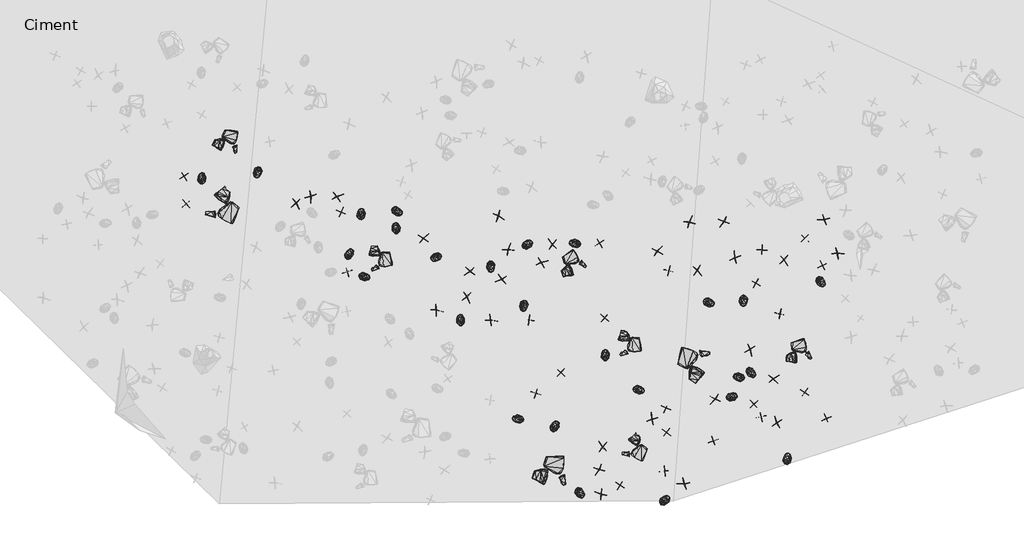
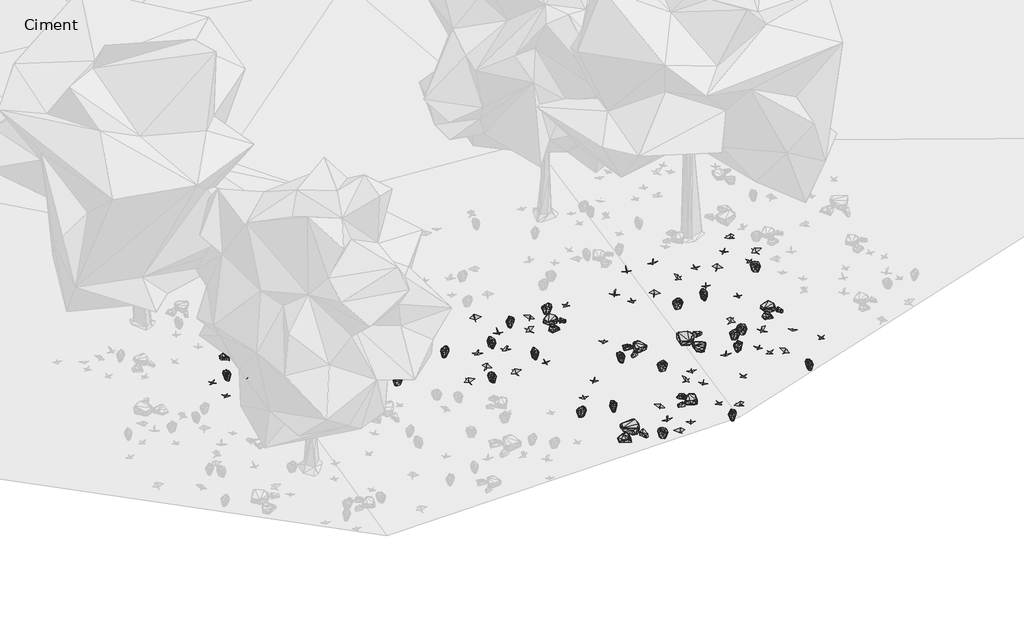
# One storey, part 3 of 30: 89 geographic elements.
"""IFC4 building model written with IfcOpenShell, lengths in millimetres."""

from ifc_helpers import new_model, si_unit, origin, place, context, project, spatial, transform, mapped, element, save
from components import enscape_assetdefinition_bush_025_fern_enscape_5718bf32, enscape_assetdefinition_bush_054_plant_09_version_2_enscape_7b546a12, enscape_assetdefinition_bush_062_plant_09_version_3_enscape_ccf8c8eb, enscape_assetdefinition_stone_013_group_enscape_516da325, enscape_assetdefinition_stone_013_group_enscape_db9b3e91

model = new_model("IFC4")

# Units and contexts
model_context = context("Model", 3, world=origin())
ifc_project = project(units=[si_unit("LENGTHUNIT", "METRE", prefix="MILLI")], contexts=[model_context])

# Site, building, storey
site = spatial("IfcSite", under=ifc_project)
building = spatial("IfcBuilding", under=site)
storey = spatial("IfcBuildingStorey", under=building, Name="Ciment", Elevation=-1500.0)

# Geographic elements
placement = place(None, origin())
enscape_assetdefinition_bush_025_fern_enscape_shape = enscape_assetdefinition_bush_025_fern_enscape_5718bf32(model_context)
element("IfcGeographicElement", 1, ObjectType="Enscape AssetDefinition - Bush 025 Fern : Enscape AssetDefinition - Bush 025 Fern", at=placement, inside=storey, context=model_context, shape_type="MappedRepresentation", body=[
    mapped(enscape_assetdefinition_bush_025_fern_enscape_shape, transform((-13961.5030289, -23129.6520233, -2418.3154106), x_axis=(-0.08780956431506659, -0.9961372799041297, 0.0), y_axis=(0.9961372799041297, -0.08780956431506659, 0.0), z_axis=(0.0, 0.0, 1.0))),
])
element("IfcGeographicElement", 2, ObjectType="Enscape AssetDefinition - Bush 025 Fern : Enscape AssetDefinition - Bush 025 Fern", at=placement, inside=storey, context=model_context, shape_type="MappedRepresentation", body=[
    mapped(enscape_assetdefinition_bush_025_fern_enscape_shape, transform((-10611.6724014, -24067.3694611, -2488.8234138), x_axis=(0.9371263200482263, -0.3489903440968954, 0.0), y_axis=(0.3489903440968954, 0.9371263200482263, 0.0), z_axis=(0.0, 0.0, 1.0))),
])
element("IfcGeographicElement", 3, ObjectType="Enscape AssetDefinition - Bush 025 Fern : Enscape AssetDefinition - Bush 025 Fern", at=placement, inside=storey, context=model_context, shape_type="MappedRepresentation", body=[
    mapped(enscape_assetdefinition_bush_025_fern_enscape_shape, transform((-8374.0606308, -25392.3854828, -2587.1636868), x_axis=(0.13866954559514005, -0.9903387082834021, 0.0), y_axis=(0.9903387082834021, 0.13866954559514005, 0.0), z_axis=(0.0, 0.0, 1.0))),
])
element("IfcGeographicElement", 4, ObjectType="Enscape AssetDefinition - Bush 025 Fern : Enscape AssetDefinition - Bush 025 Fern", at=placement, inside=storey, context=model_context, shape_type="MappedRepresentation", body=[
    mapped(enscape_assetdefinition_bush_025_fern_enscape_shape, transform((-6357.6850891, -24824.3808746, -2531.2204361), x_axis=(-0.9972411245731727, 0.07423031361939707, 0.0), y_axis=(-0.07423031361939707, -0.9972411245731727, 0.0), z_axis=(0.0, 0.0, 1.0))),
])
element("IfcGeographicElement", 5, ObjectType="Enscape AssetDefinition - Bush 025 Fern : Enscape AssetDefinition - Bush 025 Fern", at=placement, inside=storey, context=model_context, shape_type="MappedRepresentation", body=[
    mapped(enscape_assetdefinition_bush_025_fern_enscape_shape, transform((-2320.2381134, -26209.192276, -2655.1966667), x_axis=(0.014618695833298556, -0.9998931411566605, 0.0), y_axis=(0.9998931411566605, 0.014618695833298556, 0.0), z_axis=(0.0, 0.0, 1.0))),
])
element("IfcGeographicElement", 6, ObjectType="Enscape AssetDefinition - Bush 025 Fern : Enscape AssetDefinition - Bush 025 Fern", at=placement, inside=storey, context=model_context, shape_type="MappedRepresentation", body=[
    mapped(enscape_assetdefinition_bush_025_fern_enscape_shape, transform((-11390.3579712, -25631.0138702, -2603.1074524), x_axis=(0.9984094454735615, -0.056378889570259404, 0.0), y_axis=(0.056378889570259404, 0.9984094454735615, 0.0), z_axis=(0.0, 0.0, 1.0))),
])
element("IfcGeographicElement", 7, ObjectType="Enscape AssetDefinition - Bush 025 Fern : Enscape AssetDefinition - Bush 025 Fern", at=placement, inside=storey, context=model_context, shape_type="MappedRepresentation", body=[
    mapped(enscape_assetdefinition_bush_025_fern_enscape_shape, transform((-4191.3719177, -30981.2145233, -2999.2394447), x_axis=(0.6790818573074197, 0.7340625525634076, 0.0), y_axis=(-0.7340625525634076, 0.6790818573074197, 0.0), z_axis=(0.0, 0.0, 1.0))),
])
element("IfcGeographicElement", 8, ObjectType="Enscape AssetDefinition - Bush 025 Fern : Enscape AssetDefinition - Bush 025 Fern", at=placement, inside=storey, context=model_context, shape_type="MappedRepresentation", body=[
    mapped(enscape_assetdefinition_bush_025_fern_enscape_shape, transform((-7723.6499786, -29030.6949615, -2854.3531895), x_axis=(-0.9999408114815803, 0.01087996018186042, 0.0), y_axis=(-0.01087996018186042, -0.9999408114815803, 0.0), z_axis=(0.0, 0.0, 1.0))),
])
element("IfcGeographicElement", 9, ObjectType="Enscape AssetDefinition - Bush 025 Fern : Enscape AssetDefinition - Bush 025 Fern", at=placement, inside=storey, context=model_context, shape_type="MappedRepresentation", body=[
    mapped(enscape_assetdefinition_bush_025_fern_enscape_shape, transform((-10633.228302, -24452.6386261, -2517.0698166), x_axis=(-0.1950062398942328, 0.980802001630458, 0.0), y_axis=(-0.980802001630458, -0.1950062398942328, 0.0), z_axis=(0.0, 0.0, 1.0))),
])
element("IfcGeographicElement", 10, ObjectType="Enscape AssetDefinition - Bush 025 Fern : Enscape AssetDefinition - Bush 025 Fern", at=placement, inside=storey, context=model_context, shape_type="MappedRepresentation", body=[
    mapped(enscape_assetdefinition_bush_025_fern_enscape_shape, transform((-2582.1990967, -28504.2324066, -2834.7980976), x_axis=(0.9161696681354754, 0.4007906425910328, 0.0), y_axis=(-0.4007906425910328, 0.9161696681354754, 0.0), z_axis=(0.0, 0.0, 1.0))),
])
element("IfcGeographicElement", 11, ObjectType="Enscape AssetDefinition - Bush 025 Fern : Enscape AssetDefinition - Bush 025 Fern", at=placement, inside=storey, context=model_context, shape_type="MappedRepresentation", body=[
    mapped(enscape_assetdefinition_bush_025_fern_enscape_shape, transform((-6827.7416229, -29203.9432526, -2867.5227165), x_axis=(0.37171857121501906, 0.9283454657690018, 0.0), y_axis=(-0.9283454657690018, 0.37171857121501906, 0.0), z_axis=(0.0, 0.0, 1.0))),
])
element("IfcGeographicElement", 12, ObjectType="Enscape AssetDefinition - Bush 025 Fern : Enscape AssetDefinition - Bush 025 Fern", at=placement, inside=storey, context=model_context, shape_type="MappedRepresentation", body=[
    mapped(enscape_assetdefinition_bush_025_fern_enscape_shape, transform((-7482.1853638, -24850.9693146, -2541.3694382), x_axis=(0.7140884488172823, 0.7000554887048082, 0.0), y_axis=(-0.7000554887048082, 0.7140884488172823, 0.0), z_axis=(0.0, 0.0, 1.0))),
])
element("IfcGeographicElement", 13, ObjectType="Enscape AssetDefinition - Bush 025 Fern : Enscape AssetDefinition - Bush 025 Fern", at=placement, inside=storey, context=model_context, shape_type="MappedRepresentation", body=[
    mapped(enscape_assetdefinition_bush_025_fern_enscape_shape, transform((-4818.0980682, -28343.7786102, -2797.4710464), x_axis=(0.9928676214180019, -0.11922200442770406, 0.0), y_axis=(0.11922200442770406, 0.9928676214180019, 0.0), z_axis=(0.0, 0.0, 1.0))),
])
element("IfcGeographicElement", 14, ObjectType="Enscape AssetDefinition - Bush 025 Fern : Enscape AssetDefinition - Bush 025 Fern", at=placement, inside=storey, context=model_context, shape_type="MappedRepresentation", body=[
    mapped(enscape_assetdefinition_bush_025_fern_enscape_shape, transform((-2426.7177582, -28027.8263092, -2800.1658916), x_axis=(-0.9946806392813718, 0.10300692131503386, 0.0), y_axis=(-0.10300692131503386, -0.9946806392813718, 0.0), z_axis=(0.0, 0.0, 1.0))),
])
element("IfcGeographicElement", 15, ObjectType="Enscape AssetDefinition - Bush 025 Fern : Enscape AssetDefinition - Bush 025 Fern", at=placement, inside=storey, context=model_context, shape_type="MappedRepresentation", body=[
    mapped(enscape_assetdefinition_bush_025_fern_enscape_shape, transform((-3136.9132996, -26252.4623871, -2637.3078823), x_axis=(0.9695467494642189, -0.2449063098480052, 0.0), y_axis=(0.2449063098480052, 0.9695467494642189, 0.0), z_axis=(0.0, 0.0, 1.0))),
])
element("IfcGeographicElement", 16, ObjectType="Enscape AssetDefinition - Bush 025 Fern : Enscape AssetDefinition - Bush 025 Fern", at=placement, inside=storey, context=model_context, shape_type="MappedRepresentation", body=[
    mapped(enscape_assetdefinition_bush_025_fern_enscape_shape, transform((-9091.9876099, -26656.747818, -2679.527998), x_axis=(-0.2405968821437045, 0.9706251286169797, 0.0), y_axis=(-0.9706251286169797, -0.2405968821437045, 0.0), z_axis=(0.0, 0.0, 1.0))),
])
element("IfcGeographicElement", 17, ObjectType="Enscape AssetDefinition - Bush 025 Fern : Enscape AssetDefinition - Bush 025 Fern", at=placement, inside=storey, context=model_context, shape_type="MappedRepresentation", body=[
    mapped(enscape_assetdefinition_bush_025_fern_enscape_shape, transform((-5621.40131, -27496.1948395, -2736.4473343), x_axis=(-0.18906187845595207, 0.9819651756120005, 0.0), y_axis=(-0.9819651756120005, -0.18906187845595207, 0.0), z_axis=(0.0, 0.0, 1.0))),
])
element("IfcGeographicElement", 18, ObjectType="Enscape AssetDefinition - Bush 025 Fern : Enscape AssetDefinition - Bush 025 Fern", at=placement, inside=storey, context=model_context, shape_type="MappedRepresentation", body=[
    mapped(enscape_assetdefinition_bush_025_fern_enscape_shape, transform((-9689.1498566, -25156.5608978, -2569.1871643), x_axis=(-0.8601232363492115, -0.5100862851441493, 0.0), y_axis=(0.5100862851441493, -0.8601232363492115, 0.0), z_axis=(0.0, 0.0, 1.0))),
])
element("IfcGeographicElement", 19, ObjectType="Enscape AssetDefinition - Bush 025 Fern : Enscape AssetDefinition - Bush 025 Fern", at=placement, inside=storey, context=model_context, shape_type="MappedRepresentation", body=[
    mapped(enscape_assetdefinition_bush_025_fern_enscape_shape, transform((-463.1938636, -25755.3577423, -2666.9948101), x_axis=(0.7051768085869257, -0.7090315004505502, 0.0), y_axis=(0.7090315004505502, 0.7051768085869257, 0.0), z_axis=(0.0, 0.0, 1.0))),
])
element("IfcGeographicElement", 20, ObjectType="Enscape AssetDefinition - Bush 025 Fern : Enscape AssetDefinition - Bush 025 Fern", at=placement, inside=storey, context=model_context, shape_type="MappedRepresentation", body=[
    mapped(enscape_assetdefinition_bush_025_fern_enscape_shape, transform((-15290.7657623, -23260.8242035, -2502.9931068), x_axis=(-0.09757459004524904, 0.9952282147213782, 0.0), y_axis=(-0.9952282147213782, -0.09757459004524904, 0.0), z_axis=(0.0, 0.0, 1.0))),
])
element("IfcGeographicElement", 21, ObjectType="Enscape AssetDefinition - Bush 025 Fern : Enscape AssetDefinition - Bush 025 Fern", at=placement, inside=storey, context=model_context, shape_type="MappedRepresentation", body=[
    mapped(enscape_assetdefinition_bush_025_fern_enscape_shape, transform((-1258.0375671, -29982.5153351, -2989.6104336), x_axis=(0.05365490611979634, 0.9985595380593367, 0.0), y_axis=(-0.9985595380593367, 0.05365490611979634, 0.0), z_axis=(0.0, 0.0, 1.0))),
])
element("IfcGeographicElement", 22, ObjectType="Enscape AssetDefinition - Bush 025 Fern : Enscape AssetDefinition - Bush 025 Fern", at=placement, inside=storey, context=model_context, shape_type="MappedRepresentation", body=[
    mapped(enscape_assetdefinition_bush_025_fern_enscape_shape, transform((-2131.5994263, -27930.0308228, -2799.9556065), x_axis=(0.7469621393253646, -0.6648665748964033, 0.0), y_axis=(0.6648665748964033, 0.7469621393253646, 0.0), z_axis=(0.0, 0.0, 1.0))),
])
element("IfcGeographicElement", 23, ObjectType="Enscape AssetDefinition - Bush 025 Fern : Enscape AssetDefinition - Bush 025 Fern", at=placement, inside=storey, context=model_context, shape_type="MappedRepresentation", body=[
    mapped(enscape_assetdefinition_bush_025_fern_enscape_shape, transform((-11470.4217911, -24118.768692, -2492.149353), x_axis=(-0.043598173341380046, 0.9990491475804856, 0.0), y_axis=(-0.9990491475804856, -0.043598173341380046, 0.0), z_axis=(0.0, 0.0, 1.0))),
])
element("IfcGeographicElement", 24, ObjectType="Enscape AssetDefinition - Bush 025 Fern : Enscape AssetDefinition - Bush 025 Fern", at=placement, inside=storey, context=model_context, shape_type="MappedRepresentation", body=[
    mapped(enscape_assetdefinition_bush_025_fern_enscape_shape, transform((-7583.9672089, -26331.1290741, -2656.4240456), x_axis=(-0.03552901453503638, -0.99936864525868, 0.0), y_axis=(0.99936864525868, -0.03552901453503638, 0.0), z_axis=(0.0, 0.0, 1.0))),
])
element("IfcGeographicElement", 25, ObjectType="Enscape AssetDefinition - Bush 025 Fern : Enscape AssetDefinition - Bush 025 Fern", at=placement, inside=storey, context=model_context, shape_type="MappedRepresentation", body=[
    mapped(enscape_assetdefinition_bush_025_fern_enscape_shape, transform((-11754.2133331, -25076.6658783, -2562.2603893), x_axis=(0.4062116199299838, 0.9137790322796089, 0.0), y_axis=(-0.9137790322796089, 0.4062116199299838, 0.0), z_axis=(0.0, 0.0, 1.0))),
])
element("IfcGeographicElement", 26, ObjectType="Enscape AssetDefinition - Bush 025 Fern : Enscape AssetDefinition - Bush 025 Fern", at=placement, inside=storey, context=model_context, shape_type="MappedRepresentation", body=[
    mapped(enscape_assetdefinition_bush_025_fern_enscape_shape, transform((-6233.5109711, -30814.9032593, -2985.9867096), x_axis=(0.7418244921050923, -0.670594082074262, 0.0), y_axis=(0.670594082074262, 0.7418244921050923, 0.0), z_axis=(0.0, 0.0, 1.0))),
])
enscape_assetdefinition_bush_054_plant_09_version_2_enscape_shape = enscape_assetdefinition_bush_054_plant_09_version_2_enscape_7b546a12(model_context)
element("IfcGeographicElement", 27, ObjectType="Enscape AssetDefinition - Bush 054 Plant 09, Version 2 : Enscape AssetDefinition - Bush 054 Plant 09, Version 2", at=placement, inside=storey, context=model_context, shape_type="MappedRepresentation", body=[
    mapped(enscape_assetdefinition_bush_054_plant_09_version_2_enscape_shape, transform((-1873.4645844, -24979.0630341, -2566.9608116), x_axis=(0.011928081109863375, -0.9999288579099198, 0.0), y_axis=(0.9999288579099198, 0.011928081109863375, 0.0), z_axis=(0.0, 0.0, 1.0))),
])
element("IfcGeographicElement", 28, ObjectType="Enscape AssetDefinition - Bush 054 Plant 09, Version 2 : Enscape AssetDefinition - Bush 054 Plant 09, Version 2", at=placement, inside=storey, context=model_context, shape_type="MappedRepresentation", body=[
    mapped(enscape_assetdefinition_bush_054_plant_09_version_2_enscape_shape, transform((-15667.0923233, -23883.3026886, -2569.4556236), x_axis=(0.7237067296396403, 0.6901076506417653, 0.0), y_axis=(-0.6901076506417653, 0.7237067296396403, 0.0), z_axis=(0.0, 0.0, 1.0))),
])
element("IfcGeographicElement", 29, ObjectType="Enscape AssetDefinition - Bush 054 Plant 09, Version 2 : Enscape AssetDefinition - Bush 054 Plant 09, Version 2", at=placement, inside=storey, context=model_context, shape_type="MappedRepresentation", body=[
    mapped(enscape_assetdefinition_bush_054_plant_09_version_2_enscape_shape, transform((-847.4082947, -28393.1312561, -2871.2384701), x_axis=(-0.509105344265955, -0.8607042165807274, 0.0), y_axis=(0.8607042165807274, -0.509105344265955, 0.0), z_axis=(0.0, 0.0, 1.0))),
])
element("IfcGeographicElement", 30, ObjectType="Enscape AssetDefinition - Bush 054 Plant 09, Version 2 : Enscape AssetDefinition - Bush 054 Plant 09, Version 2", at=placement, inside=storey, context=model_context, shape_type="MappedRepresentation", body=[
    mapped(enscape_assetdefinition_bush_054_plant_09_version_2_enscape_shape, transform((-332.5881958, -29021.3871002, -2935.7757568), x_axis=(0.45065573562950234, -0.8926978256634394, 0.0), y_axis=(0.8926978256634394, 0.45065573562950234, 0.0), z_axis=(0.0, 0.0, 1.0))),
])
element("IfcGeographicElement", 31, ObjectType="Enscape AssetDefinition - Bush 054 Plant 09, Version 2 : Enscape AssetDefinition - Bush 054 Plant 09, Version 2", at=placement, inside=storey, context=model_context, shape_type="MappedRepresentation", body=[
    mapped(enscape_assetdefinition_bush_054_plant_09_version_2_enscape_shape, transform((-4168.2701111, -28771.9402313, -2826.54953), x_axis=(0.34315015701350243, 0.9392805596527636, 0.0), y_axis=(-0.9392805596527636, 0.34315015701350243, 0.0), z_axis=(0.0, 0.0, 1.0))),
])
element("IfcGeographicElement", 32, ObjectType="Enscape AssetDefinition - Bush 054 Plant 09, Version 2 : Enscape AssetDefinition - Bush 054 Plant 09, Version 2", at=placement, inside=storey, context=model_context, shape_type="MappedRepresentation", body=[
    mapped(enscape_assetdefinition_bush_054_plant_09_version_2_enscape_shape, transform((-15713.2120132, -23217.3671722, -2527.7676582), x_axis=(-0.5642167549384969, 0.8256267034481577, 0.0), y_axis=(-0.8256267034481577, -0.5642167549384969, 0.0), z_axis=(0.0, 0.0, 1.0))),
])
element("IfcGeographicElement", 33, ObjectType="Enscape AssetDefinition - Bush 054 Plant 09, Version 2 : Enscape AssetDefinition - Bush 054 Plant 09, Version 2", at=placement, inside=storey, context=model_context, shape_type="MappedRepresentation", body=[
    mapped(enscape_assetdefinition_bush_054_plant_09_version_2_enscape_shape, transform((-5268.4879303, -30628.9634705, -2972.8474617), x_axis=(0.46793591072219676, 0.8837624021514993, 0.0), y_axis=(-0.8837624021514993, 0.46793591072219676, 0.0), z_axis=(0.0, 0.0, 1.0))),
])
element("IfcGeographicElement", 34, ObjectType="Enscape AssetDefinition - Bush 054 Plant 09, Version 2 : Enscape AssetDefinition - Bush 054 Plant 09, Version 2", at=placement, inside=storey, context=model_context, shape_type="MappedRepresentation", body=[
    mapped(enscape_assetdefinition_bush_054_plant_09_version_2_enscape_shape, transform((-1445.0817108, -26520.5821991, -2703.4332752), x_axis=(0.9899064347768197, -0.1417224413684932, 0.0), y_axis=(0.1417224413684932, 0.9899064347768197, 0.0), z_axis=(0.0, 0.0, 1.0))),
])
element("IfcGeographicElement", 35, ObjectType="Enscape AssetDefinition - Bush 054 Plant 09, Version 2 : Enscape AssetDefinition - Bush 054 Plant 09, Version 2", at=placement, inside=storey, context=model_context, shape_type="MappedRepresentation", body=[
    mapped(enscape_assetdefinition_bush_054_plant_09_version_2_enscape_shape, transform((-4159.3132019, -29351.568222, -2872.1523285), x_axis=(-0.5634094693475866, -0.826177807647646, 0.0), y_axis=(0.826177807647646, -0.5634094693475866, 0.0), z_axis=(0.0, 0.0, 1.0))),
])
element("IfcGeographicElement", 36, ObjectType="Enscape AssetDefinition - Bush 054 Plant 09, Version 2 : Enscape AssetDefinition - Bush 054 Plant 09, Version 2", at=placement, inside=storey, context=model_context, shape_type="MappedRepresentation", body=[
    mapped(enscape_assetdefinition_bush_054_plant_09_version_2_enscape_shape, transform((-420.1049805, -25362.2570038, -2636.1851692), x_axis=(0.8747890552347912, 0.4845039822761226, 0.0), y_axis=(-0.4845039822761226, 0.8747890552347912, 0.0), z_axis=(0.0, 0.0, 1.0))),
])
element("IfcGeographicElement", 37, ObjectType="Enscape AssetDefinition - Bush 054 Plant 09, Version 2 : Enscape AssetDefinition - Bush 054 Plant 09, Version 2", at=placement, inside=storey, context=model_context, shape_type="MappedRepresentation", body=[
    mapped(enscape_assetdefinition_bush_054_plant_09_version_2_enscape_shape, transform((-11957.6263428, -24082.3001862, -2489.2232418), x_axis=(0.9417108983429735, -0.3364232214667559, 0.0), y_axis=(0.3364232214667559, 0.9417108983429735, 0.0), z_axis=(0.0, 0.0, 1.0))),
])
element("IfcGeographicElement", 38, ObjectType="Enscape AssetDefinition - Bush 054 Plant 09, Version 2 : Enscape AssetDefinition - Bush 054 Plant 09, Version 2", at=placement, inside=storey, context=model_context, shape_type="MappedRepresentation", body=[
    mapped(enscape_assetdefinition_bush_054_plant_09_version_2_enscape_shape, transform((-6684.6995354, -27921.661377, -2773.5471725), x_axis=(-0.7570906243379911, 0.6533098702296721, 0.0), y_axis=(-0.6533098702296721, -0.7570906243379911, 0.0), z_axis=(0.0, 0.0, 1.0))),
])
element("IfcGeographicElement", 39, ObjectType="Enscape AssetDefinition - Bush 054 Plant 09, Version 2 : Enscape AssetDefinition - Bush 054 Plant 09, Version 2", at=placement, inside=storey, context=model_context, shape_type="MappedRepresentation", body=[
    mapped(enscape_assetdefinition_bush_054_plant_09_version_2_enscape_shape, transform((-4105.0415039, -25485.8341217, -2567.1992302), x_axis=(0.9865727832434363, -0.16332220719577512, 0.0), y_axis=(0.16332220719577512, 0.9865727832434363, 0.0), z_axis=(0.0, 0.0, 1.0))),
])
element("IfcGeographicElement", 40, ObjectType="Enscape AssetDefinition - Bush 054 Plant 09, Version 2 : Enscape AssetDefinition - Bush 054 Plant 09, Version 2", at=placement, inside=storey, context=model_context, shape_type="MappedRepresentation", body=[
    mapped(enscape_assetdefinition_bush_054_plant_09_version_2_enscape_shape, transform((-2010.9138489, -25781.8012238, -2628.5791397), x_axis=(-0.8935900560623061, 0.44888396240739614, 0.0), y_axis=(-0.44888396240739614, -0.8935900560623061, 0.0), z_axis=(0.0, 0.0, 1.0))),
])
element("IfcGeographicElement", 41, ObjectType="Enscape AssetDefinition - Bush 054 Plant 09, Version 2 : Enscape AssetDefinition - Bush 054 Plant 09, Version 2", at=placement, inside=storey, context=model_context, shape_type="MappedRepresentation", body=[
    mapped(enscape_assetdefinition_bush_054_plant_09_version_2_enscape_shape, transform((-7282.907486, -28421.8940735, -2809.9279404), x_axis=(0.23126028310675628, 0.9728919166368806, 0.0), y_axis=(-0.9728919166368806, 0.23126028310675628, 0.0), z_axis=(0.0, 0.0, 1.0))),
])
element("IfcGeographicElement", 42, ObjectType="Enscape AssetDefinition - Bush 054 Plant 09, Version 2 : Enscape AssetDefinition - Bush 054 Plant 09, Version 2", at=placement, inside=storey, context=model_context, shape_type="MappedRepresentation", body=[
    mapped(enscape_assetdefinition_bush_054_plant_09_version_2_enscape_shape, transform((-7442.9988861, -26659.5230103, -2680.583477), x_axis=(-0.997400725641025, 0.07205409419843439, 0.0), y_axis=(-0.07205409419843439, -0.997400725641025, 0.0), z_axis=(0.0, 0.0, 1.0))),
])
element("IfcGeographicElement", 43, ObjectType="Enscape AssetDefinition - Bush 054 Plant 09, Version 2 : Enscape AssetDefinition - Bush 054 Plant 09, Version 2", at=placement, inside=storey, context=model_context, shape_type="MappedRepresentation", body=[
    mapped(enscape_assetdefinition_bush_054_plant_09_version_2_enscape_shape, transform((-835.9470367, -24704.0462494, -2571.8083382), x_axis=(-0.7502228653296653, 0.661185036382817, 0.0), y_axis=(-0.661185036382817, -0.7502228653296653, 0.0), z_axis=(0.0, 0.0, 1.0))),
])
element("IfcGeographicElement", 44, ObjectType="Enscape AssetDefinition - Bush 054 Plant 09, Version 2 : Enscape AssetDefinition - Bush 054 Plant 09, Version 2", at=placement, inside=storey, context=model_context, shape_type="MappedRepresentation", body=[
    mapped(enscape_assetdefinition_bush_054_plant_09_version_2_enscape_shape, transform((-2068.9640045, -28681.8447113, -2862.6799583), x_axis=(0.7467153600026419, -0.6651437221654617, 0.0), y_axis=(0.6651437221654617, 0.7467153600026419, 0.0), z_axis=(0.0, 0.0, 1.0))),
])
element("IfcGeographicElement", 45, ObjectType="Enscape AssetDefinition - Bush 054 Plant 09, Version 2 : Enscape AssetDefinition - Bush 054 Plant 09, Version 2", at=placement, inside=storey, context=model_context, shape_type="MappedRepresentation", body=[
    mapped(enscape_assetdefinition_bush_054_plant_09_version_2_enscape_shape, transform((-5636.7454529, -26618.76297, -2667.4282551), x_axis=(0.6199974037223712, 0.7846038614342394, 0.0), y_axis=(-0.7846038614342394, 0.6199974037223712, 0.0), z_axis=(0.0, 0.0, 1.0))),
])
element("IfcGeographicElement", 46, ObjectType="Enscape AssetDefinition - Bush 054 Plant 09, Version 2 : Enscape AssetDefinition - Bush 054 Plant 09, Version 2", at=placement, inside=storey, context=model_context, shape_type="MappedRepresentation", body=[
    mapped(enscape_assetdefinition_bush_054_plant_09_version_2_enscape_shape, transform((-5757.4501038, -24818.9487457, -2526.4935493), x_axis=(-0.5704330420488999, 0.8213441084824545, 0.0), y_axis=(-0.8213441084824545, -0.5704330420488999, 0.0), z_axis=(0.0, 0.0, 1.0))),
])
element("IfcGeographicElement", 47, ObjectType="Enscape AssetDefinition - Bush 054 Plant 09, Version 2 : Enscape AssetDefinition - Bush 054 Plant 09, Version 2", at=placement, inside=storey, context=model_context, shape_type="MappedRepresentation", body=[
    mapped(enscape_assetdefinition_bush_054_plant_09_version_2_enscape_shape, transform((-11802.5951385, -25507.5626373, -2593.8403606), x_axis=(-0.35753843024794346, 0.9338984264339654, 0.0), y_axis=(-0.9338984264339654, -0.35753843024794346, 0.0), z_axis=(0.0, 0.0, 1.0))),
])
element("IfcGeographicElement", 48, ObjectType="Enscape AssetDefinition - Bush 054 Plant 09, Version 2 : Enscape AssetDefinition - Bush 054 Plant 09, Version 2", at=placement, inside=storey, context=model_context, shape_type="MappedRepresentation", body=[
    mapped(enscape_assetdefinition_bush_054_plant_09_version_2_enscape_shape, transform((-1881.9580078, -28982.1033478, -2891.9768333), x_axis=(-0.25089383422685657, 0.9680146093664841, 0.0), y_axis=(-0.9680146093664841, -0.25089383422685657, 0.0), z_axis=(0.0, 0.0, 1.0))),
])
element("IfcGeographicElement", 49, ObjectType="Enscape AssetDefinition - Bush 054 Plant 09, Version 2 : Enscape AssetDefinition - Bush 054 Plant 09, Version 2", at=placement, inside=storey, context=model_context, shape_type="MappedRepresentation", body=[
    mapped(enscape_assetdefinition_bush_054_plant_09_version_2_enscape_shape, transform((-4203.5942078, -30286.359787, -2946.1166859), x_axis=(0.9855337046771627, 0.16947954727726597, 0.0), y_axis=(-0.16947954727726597, 0.9855337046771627, 0.0), z_axis=(0.0, 0.0, 1.0))),
])
element("IfcGeographicElement", 50, ObjectType="Enscape AssetDefinition - Bush 054 Plant 09, Version 2 : Enscape AssetDefinition - Bush 054 Plant 09, Version 2", at=placement, inside=storey, context=model_context, shape_type="MappedRepresentation", body=[
    mapped(enscape_assetdefinition_bush_054_plant_09_version_2_enscape_shape, transform((-3043.3559418, -29561.3956451, -2908.6036682), x_axis=(0.36829596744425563, -0.9297085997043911, 0.0), y_axis=(0.9297085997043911, 0.36829596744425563, 0.0), z_axis=(0.0, 0.0, 1.0))),
])
enscape_assetdefinition_bush_062_plant_09_version_3_enscape_shape = enscape_assetdefinition_bush_062_plant_09_version_3_enscape_ccf8c8eb(model_context)
element("IfcGeographicElement", 51, ObjectType="Enscape AssetDefinition - Bush 062 Plant 09, Version 3 : Enscape AssetDefinition - Bush 062 Plant 09, Version 3", at=placement, inside=storey, context=model_context, shape_type="MappedRepresentation", body=[
    mapped(enscape_assetdefinition_bush_062_plant_09_version_3_enscape_shape, transform((-8876.537323, -25506.7310333, -2595.2906609), x_axis=(-0.8296369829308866, 0.5583032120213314, 0.0), y_axis=(-0.5583032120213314, -0.8296369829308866, 0.0), z_axis=(0.0, 0.0, 1.0))),
])
element("IfcGeographicElement", 52, ObjectType="Enscape AssetDefinition - Bush 062 Plant 09, Version 3 : Enscape AssetDefinition - Bush 062 Plant 09, Version 3", at=placement, inside=storey, context=model_context, shape_type="MappedRepresentation", body=[
    mapped(enscape_assetdefinition_bush_062_plant_09_version_3_enscape_shape, transform((-2149.3301392, -27378.9234161, -2754.7142506), x_axis=(-0.8127163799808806, -0.5826594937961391, 0.0), y_axis=(0.5826594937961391, -0.8127163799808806, 0.0), z_axis=(0.0, 0.0, 1.0))),
])
element("IfcGeographicElement", 53, ObjectType="Enscape AssetDefinition - Bush 062 Plant 09, Version 3 : Enscape AssetDefinition - Bush 062 Plant 09, Version 3", at=placement, inside=storey, context=model_context, shape_type="MappedRepresentation", body=[
    mapped(enscape_assetdefinition_bush_062_plant_09_version_3_enscape_shape, transform((-7141.7946815, -25277.7614594, -2572.5562572), x_axis=(0.601068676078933, -0.7991973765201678, 0.0), y_axis=(0.7991973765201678, 0.601068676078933, 0.0), z_axis=(0.0, 0.0, 1.0))),
])
element("IfcGeographicElement", 54, ObjectType="Enscape AssetDefinition - Bush 062 Plant 09, Version 3 : Enscape AssetDefinition - Bush 062 Plant 09, Version 3", at=placement, inside=storey, context=model_context, shape_type="MappedRepresentation", body=[
    mapped(enscape_assetdefinition_bush_062_plant_09_version_3_enscape_shape, transform((-2522.895813, -25163.7649536, -2564.9466515), x_axis=(0.8740141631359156, 0.48590044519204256, 0.0), y_axis=(-0.48590044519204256, 0.8740141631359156, 0.0), z_axis=(0.0, 0.0, 1.0))),
])
element("IfcGeographicElement", 55, ObjectType="Enscape AssetDefinition - Bush 062 Plant 09, Version 3 : Enscape AssetDefinition - Bush 062 Plant 09, Version 3", at=placement, inside=storey, context=model_context, shape_type="MappedRepresentation", body=[
    mapped(enscape_assetdefinition_bush_062_plant_09_version_3_enscape_shape, transform((-1589.2410278, -28064.1689301, -2825.067997), x_axis=(0.8019605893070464, -0.5973769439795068, 0.0), y_axis=(0.5973769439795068, 0.8019605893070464, 0.0), z_axis=(0.0, 0.0, 1.0))),
])
element("IfcGeographicElement", 56, ObjectType="Enscape AssetDefinition - Bush 062 Plant 09, Version 3 : Enscape AssetDefinition - Bush 062 Plant 09, Version 3", at=placement, inside=storey, context=model_context, shape_type="MappedRepresentation", body=[
    mapped(enscape_assetdefinition_bush_062_plant_09_version_3_enscape_shape, transform((-3409.0557098, -25482.1033478, -2567.5854683), x_axis=(-0.4731344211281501, -0.8809902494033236, 0.0), y_axis=(0.8809902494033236, -0.4731344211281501, 0.0), z_axis=(0.0, 0.0, 1.0))),
])
element("IfcGeographicElement", 57, ObjectType="Enscape AssetDefinition - Bush 062 Plant 09, Version 3 : Enscape AssetDefinition - Bush 062 Plant 09, Version 3", at=placement, inside=storey, context=model_context, shape_type="MappedRepresentation", body=[
    mapped(enscape_assetdefinition_bush_062_plant_09_version_3_enscape_shape, transform((-6901.134491, -24844.0036774, -2536.6587639), x_axis=(0.5163165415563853, 0.8563978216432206, 0.0), y_axis=(-0.8563978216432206, 0.5163165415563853, 0.0), z_axis=(0.0, 0.0, 1.0))),
])
element("IfcGeographicElement", 58, ObjectType="Enscape AssetDefinition - Bush 062 Plant 09, Version 3 : Enscape AssetDefinition - Bush 062 Plant 09, Version 3", at=placement, inside=storey, context=model_context, shape_type="MappedRepresentation", body=[
    mapped(enscape_assetdefinition_bush_062_plant_09_version_3_enscape_shape, transform((-3608.8922024, -24308.4659576, -2470.8867073), x_axis=(0.9976643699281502, -0.0683066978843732, 0.0), y_axis=(0.0683066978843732, 0.9976643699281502, 0.0), z_axis=(0.0, 0.0, 1.0))),
])
element("IfcGeographicElement", 59, ObjectType="Enscape AssetDefinition - Bush 062 Plant 09, Version 3 : Enscape AssetDefinition - Bush 062 Plant 09, Version 3", at=placement, inside=storey, context=model_context, shape_type="MappedRepresentation", body=[
    mapped(enscape_assetdefinition_bush_062_plant_09_version_3_enscape_shape, transform((-7949.9125481, -24967.3557281, -2553.8892746), x_axis=(0.9991009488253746, 0.04239450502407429, 0.0), y_axis=(-0.04239450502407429, 0.9991009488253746, 0.0), z_axis=(0.0, 0.0, 1.0))),
])
element("IfcGeographicElement", 60, ObjectType="Enscape AssetDefinition - Bush 062 Plant 09, Version 3 : Enscape AssetDefinition - Bush 062 Plant 09, Version 3", at=placement, inside=storey, context=model_context, shape_type="MappedRepresentation", body=[
    mapped(enscape_assetdefinition_bush_062_plant_09_version_3_enscape_shape, transform((-393.1369781, -24253.9730072, -2546.8468666), x_axis=(-0.4185875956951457, 0.9081764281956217, 0.0), y_axis=(-0.9081764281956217, -0.4185875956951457, 0.0), z_axis=(0.0, 0.0, 1.0))),
])
element("IfcGeographicElement", 61, ObjectType="Enscape AssetDefinition - Bush 062 Plant 09, Version 3 : Enscape AssetDefinition - Bush 062 Plant 09, Version 3", at=placement, inside=storey, context=model_context, shape_type="MappedRepresentation", body=[
    mapped(enscape_assetdefinition_bush_062_plant_09_version_3_enscape_shape, transform((-12679.6207428, -23712.8677368, -2461.7543221), x_axis=(-0.9133522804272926, -0.40717024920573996, 0.0), y_axis=(0.40717024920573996, -0.9133522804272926, 0.0), z_axis=(0.0, 0.0, 1.0))),
])
element("IfcGeographicElement", 62, ObjectType="Enscape AssetDefinition - Bush 062 Plant 09, Version 3 : Enscape AssetDefinition - Bush 062 Plant 09, Version 3", at=placement, inside=storey, context=model_context, shape_type="MappedRepresentation", body=[
    mapped(enscape_assetdefinition_bush_062_plant_09_version_3_enscape_shape, transform((-13028.1391144, -23873.6782074, -2473.3688831), x_axis=(-0.6440258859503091, -0.7650036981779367, 0.0), y_axis=(0.7650036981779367, -0.6440258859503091, 0.0), z_axis=(0.0, 0.0, 1.0))),
])
element("IfcGeographicElement", 63, ObjectType="Enscape AssetDefinition - Bush 062 Plant 09, Version 3 : Enscape AssetDefinition - Bush 062 Plant 09, Version 3", at=placement, inside=storey, context=model_context, shape_type="MappedRepresentation", body=[
    mapped(enscape_assetdefinition_bush_062_plant_09_version_3_enscape_shape, transform((-2788.3243561, -24315.328598, -2489.055872), x_axis=(-0.9716922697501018, 0.23625014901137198, 0.0), y_axis=(-0.23625014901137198, -0.9716922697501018, 0.0), z_axis=(0.0, 0.0, 1.0))),
])
element("IfcGeographicElement", 64, ObjectType="Enscape AssetDefinition - Bush 062 Plant 09, Version 3 : Enscape AssetDefinition - Bush 062 Plant 09, Version 3", at=placement, inside=storey, context=model_context, shape_type="MappedRepresentation", body=[
    mapped(enscape_assetdefinition_bush_062_plant_09_version_3_enscape_shape, transform((-5735.8551025, -30836.3819122, -2987.8191948), x_axis=(-0.01741921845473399, 0.999848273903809, 0.0), y_axis=(-0.999848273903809, -0.01741921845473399, 0.0), z_axis=(0.0, 0.0, 1.0))),
])
element("IfcGeographicElement", 65, ObjectType="Enscape AssetDefinition - Bush 062 Plant 09, Version 3 : Enscape AssetDefinition - Bush 062 Plant 09, Version 3", at=placement, inside=storey, context=model_context, shape_type="MappedRepresentation", body=[
    mapped(enscape_assetdefinition_bush_062_plant_09_version_3_enscape_shape, transform((-4511.4574432, -29029.2949677, -2849.2836952), x_axis=(0.901023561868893, 0.4337701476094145, 0.0), y_axis=(-0.4337701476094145, 0.901023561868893, 0.0), z_axis=(0.0, 0.0, 1.0))),
])
element("IfcGeographicElement", 66, ObjectType="Enscape AssetDefinition - Bush 062 Plant 09, Version 3 : Enscape AssetDefinition - Bush 062 Plant 09, Version 3", at=placement, inside=storey, context=model_context, shape_type="MappedRepresentation", body=[
    mapped(enscape_assetdefinition_bush_062_plant_09_version_3_enscape_shape, transform((-9975.0804901, -24698.091507, -2535.4132652), x_axis=(0.8885820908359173, -0.4587176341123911, 0.0), y_axis=(0.4587176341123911, 0.8885820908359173, 0.0), z_axis=(0.0, 0.0, 1.0))),
])
element("IfcGeographicElement", 67, ObjectType="Enscape AssetDefinition - Bush 062 Plant 09, Version 3 : Enscape AssetDefinition - Bush 062 Plant 09, Version 3", at=placement, inside=storey, context=model_context, shape_type="MappedRepresentation", body=[
    mapped(enscape_assetdefinition_bush_062_plant_09_version_3_enscape_shape, transform((-50.73357, -25062.078476, -2621.4771271), x_axis=(0.3239686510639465, -0.9460678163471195, 0.0), y_axis=(0.9460678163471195, 0.3239686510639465, 0.0), z_axis=(0.0, 0.0, 1.0))),
])
element("IfcGeographicElement", 68, ObjectType="Enscape AssetDefinition - Bush 062 Plant 09, Version 3 : Enscape AssetDefinition - Bush 062 Plant 09, Version 3", at=placement, inside=storey, context=model_context, shape_type="MappedRepresentation", body=[
    mapped(enscape_assetdefinition_bush_062_plant_09_version_3_enscape_shape, transform((-5776.9641876, -30258.0680847, -2945.3811646), x_axis=(-0.9816786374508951, 0.19054409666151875, 0.0), y_axis=(-0.19054409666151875, -0.9816786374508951, 0.0), z_axis=(0.0, 0.0, 1.0))),
])
element("IfcGeographicElement", 69, ObjectType="Enscape AssetDefinition - Bush 062 Plant 09, Version 3 : Enscape AssetDefinition - Bush 062 Plant 09, Version 3", at=placement, inside=storey, context=model_context, shape_type="MappedRepresentation", body=[
    mapped(enscape_assetdefinition_bush_062_plant_09_version_3_enscape_shape, transform((-8935.4801178, -26115.6291962, -2639.9197578), x_axis=(-0.681994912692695, -0.7313569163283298, 0.0), y_axis=(0.7313569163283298, -0.681994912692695, 0.0), z_axis=(0.0, 0.0, 1.0))),
])
element("IfcGeographicElement", 70, ObjectType="Enscape AssetDefinition - Bush 062 Plant 09, Version 3 : Enscape AssetDefinition - Bush 062 Plant 09, Version 3", at=placement, inside=storey, context=model_context, shape_type="MappedRepresentation", body=[
    mapped(enscape_assetdefinition_bush_062_plant_09_version_3_enscape_shape, transform((-2997.8125095, -28566.6027069, -2828.9723396), x_axis=(-0.9349613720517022, 0.3547495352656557, 0.0), y_axis=(-0.3547495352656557, -0.9349613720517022, 0.0), z_axis=(0.0, 0.0, 1.0))),
])
element("IfcGeographicElement", 71, ObjectType="Enscape AssetDefinition - Bush 062 Plant 09, Version 3 : Enscape AssetDefinition - Bush 062 Plant 09, Version 3", at=placement, inside=storey, context=model_context, shape_type="MappedRepresentation", body=[
    mapped(enscape_assetdefinition_bush_062_plant_09_version_3_enscape_shape, transform((-12042.6931381, -23699.9645233, -2461.1365795), x_axis=(0.6631007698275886, -0.7485301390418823, 0.0), y_axis=(0.7485301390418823, 0.6631007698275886, 0.0), z_axis=(0.0, 0.0, 1.0))),
])
element("IfcGeographicElement", 72, ObjectType="Enscape AssetDefinition - Bush 062 Plant 09, Version 3 : Enscape AssetDefinition - Bush 062 Plant 09, Version 3", at=placement, inside=storey, context=model_context, shape_type="MappedRepresentation", body=[
    mapped(enscape_assetdefinition_bush_062_plant_09_version_3_enscape_shape, transform((-3748.2128143, -30589.9219513, -2973.695755), x_axis=(-0.4035397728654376, 0.9149621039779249, 0.0), y_axis=(-0.9149621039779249, -0.4035397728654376, 0.0), z_axis=(0.0, 0.0, 1.0))),
])
element("IfcGeographicElement", 73, ObjectType="Enscape AssetDefinition - Bush 062 Plant 09, Version 3 : Enscape AssetDefinition - Bush 062 Plant 09, Version 3", at=placement, inside=storey, context=model_context, shape_type="MappedRepresentation", body=[
    mapped(enscape_assetdefinition_bush_062_plant_09_version_3_enscape_shape, transform((-1517.5132751, -29115.3812408, -2912.3566151), x_axis=(0.7493967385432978, 0.6621212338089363, 0.0), y_axis=(-0.6621212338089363, 0.7493967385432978, 0.0), z_axis=(0.0, 0.0, 1.0))),
])
element("IfcGeographicElement", 74, ObjectType="Enscape AssetDefinition - Bush 062 Plant 09, Version 3 : Enscape AssetDefinition - Bush 062 Plant 09, Version 3", at=placement, inside=storey, context=model_context, shape_type="MappedRepresentation", body=[
    mapped(enscape_assetdefinition_bush_062_plant_09_version_3_enscape_shape, transform((-9661.9033813, -26425.573349, -2662.2776985), x_axis=(0.18662172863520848, -0.9824318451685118, 0.0), y_axis=(0.9824318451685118, 0.18662172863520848, 0.0), z_axis=(0.0, 0.0, 1.0))),
])
element("IfcGeographicElement", 75, ObjectType="Enscape AssetDefinition - Bush 062 Plant 09, Version 3 : Enscape AssetDefinition - Bush 062 Plant 09, Version 3", at=placement, inside=storey, context=model_context, shape_type="MappedRepresentation", body=[
    mapped(enscape_assetdefinition_bush_062_plant_09_version_3_enscape_shape, transform((-8360.9313965, -26663.2995605, -2680.385828), x_axis=(0.23789151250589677, -0.9712917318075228, 0.0), y_axis=(0.9712917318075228, 0.23789151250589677, 0.0), z_axis=(0.0, 0.0, 1.0))),
])
element("IfcGeographicElement", 76, ObjectType="Enscape AssetDefinition - Bush 062 Plant 09, Version 3 : Enscape AssetDefinition - Bush 062 Plant 09, Version 3", at=placement, inside=storey, context=model_context, shape_type="MappedRepresentation", body=[
    mapped(enscape_assetdefinition_bush_062_plant_09_version_3_enscape_shape, transform((-1333.2080841, -25229.6562195, -2601.480484), x_axis=(-0.5996795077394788, -0.8002402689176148, 0.0), y_axis=(0.8002402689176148, -0.5996795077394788, 0.0), z_axis=(0.0, 0.0, 1.0))),
])
element("IfcGeographicElement", 77, ObjectType="Enscape AssetDefinition - Bush 062 Plant 09, Version 3 : Enscape AssetDefinition - Bush 062 Plant 09, Version 3", at=placement, inside=storey, context=model_context, shape_type="MappedRepresentation", body=[
    mapped(enscape_assetdefinition_bush_062_plant_09_version_3_enscape_shape, transform((-8114.6125793, -25693.9868927, -2609.4183922), x_axis=(-0.7059419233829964, 0.7082697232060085, 0.0), y_axis=(-0.7082697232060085, -0.7059419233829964, 0.0), z_axis=(0.0, 0.0, 1.0))),
])
element("IfcGeographicElement", 78, ObjectType="Enscape AssetDefinition - Bush 062 Plant 09, Version 3 : Enscape AssetDefinition - Bush 062 Plant 09, Version 3", at=placement, inside=storey, context=model_context, shape_type="MappedRepresentation", body=[
    mapped(enscape_assetdefinition_bush_062_plant_09_version_3_enscape_shape, transform((-8173.0098724, -24173.1357574, -2492.913723), x_axis=(-0.17969192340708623, -0.9837229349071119, 0.0), y_axis=(0.9837229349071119, -0.17969192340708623, 0.0), z_axis=(0.0, 0.0, 1.0))),
])
element("IfcGeographicElement", 79, ObjectType="Enscape AssetDefinition - Bush 062 Plant 09, Version 3 : Enscape AssetDefinition - Bush 062 Plant 09, Version 3", at=placement, inside=storey, context=model_context, shape_type="MappedRepresentation", body=[
    mapped(enscape_assetdefinition_bush_062_plant_09_version_3_enscape_shape, transform((-5697.2484589, -29696.0124969, -2904.1981697), x_axis=(0.544739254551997, 0.8386054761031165, 0.0), y_axis=(-0.8386054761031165, 0.544739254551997, 0.0), z_axis=(0.0, 0.0, 1.0))),
])
element("IfcGeographicElement", 80, ObjectType="Enscape AssetDefinition - Bush 062 Plant 09, Version 3 : Enscape AssetDefinition - Bush 062 Plant 09, Version 3", at=placement, inside=storey, context=model_context, shape_type="MappedRepresentation", body=[
    mapped(enscape_assetdefinition_bush_062_plant_09_version_3_enscape_shape, transform((-4368.2098389, -25004.9381256, -2531.1965942), x_axis=(0.9387430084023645, -0.34461799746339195, 0.0), y_axis=(0.34461799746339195, 0.9387430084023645, 0.0), z_axis=(0.0, 0.0, 1.0))),
])
enscape_assetdefinition_stone_013_group_enscape_shape = enscape_assetdefinition_stone_013_group_enscape_516da325(model_context)
element("IfcGeographicElement", 81, ObjectType="Enscape AssetDefinition - Stone 013 Group : Enscape AssetDefinition - Stone 013 Group", at=placement, inside=storey, context=model_context, shape_type="MappedRepresentation", body=[
    mapped(enscape_assetdefinition_stone_013_group_enscape_shape, transform((-6876.1520386, -30316.4577484, -2949.0966797), x_axis=(0.9972914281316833, -0.07355139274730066, 0.0), y_axis=(0.07355139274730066, 0.9972914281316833, 0.0), z_axis=(0.0, 0.0, 1.0))),
])
element("IfcGeographicElement", 82, ObjectType="Enscape AssetDefinition - Stone 013 Group : Enscape AssetDefinition - Stone 013 Group", at=placement, inside=storey, context=model_context, shape_type="MappedRepresentation", body=[
    mapped(enscape_assetdefinition_stone_013_group_enscape_shape, transform((-3474.2221832, -27652.2426605, -2742.1965599), x_axis=(0.3030264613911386, 0.9529821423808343, 0.0), y_axis=(-0.9529821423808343, 0.3030264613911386, 0.0), z_axis=(0.0, 0.0, 1.0))),
])
element("IfcGeographicElement", 83, ObjectType="Enscape AssetDefinition - Stone 013 Group : Enscape AssetDefinition - Stone 013 Group", at=placement, inside=storey, context=model_context, shape_type="MappedRepresentation", body=[
    mapped(enscape_assetdefinition_stone_013_group_enscape_shape, transform((-14815.8569336, -23972.6467133, -2519.6528435), x_axis=(-0.46024880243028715, -0.8877899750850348, 0.0), y_axis=(0.8877899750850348, -0.46024880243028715, 0.0), z_axis=(0.0, 0.0, 1.0))),
])
enscape_assetdefinition_stone_013_group_enscape_2_shape = enscape_assetdefinition_stone_013_group_enscape_db9b3e91(model_context)
element("IfcGeographicElement", 84, ObjectType="Enscape AssetDefinition - Stone 013 Group : Enscape AssetDefinition - Stone 013 Group 2", at=placement, inside=storey, context=model_context, shape_type="MappedRepresentation", body=[
    mapped(enscape_assetdefinition_stone_013_group_enscape_2_shape, transform((-957.0350647, -27438.7741089, -2790.825367), x_axis=(0.973401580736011, 0.22910557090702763, 0.0), y_axis=(-0.22910557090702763, 0.973401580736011, 0.0), z_axis=(0.0, 0.0, 1.0))),
])
element("IfcGeographicElement", 85, ObjectType="Enscape AssetDefinition - Stone 013 Group : Enscape AssetDefinition - Stone 013 Group 2", at=placement, inside=storey, context=model_context, shape_type="MappedRepresentation", body=[
    mapped(enscape_assetdefinition_stone_013_group_enscape_2_shape, transform((-5076.1814117, -27261.9991302, -2714.0910625), x_axis=(0.08978736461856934, -0.9959609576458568, 0.0), y_axis=(0.9959609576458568, 0.08978736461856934, 0.0), z_axis=(0.0, 0.0, 1.0))),
])
element("IfcGeographicElement", 86, ObjectType="Enscape AssetDefinition - Stone 013 Group : Enscape AssetDefinition - Stone 013 Group 2", at=placement, inside=storey, context=model_context, shape_type="MappedRepresentation", body=[
    mapped(enscape_assetdefinition_stone_013_group_enscape_2_shape, transform((-6383.4609985, -25320.1580048, -2570.4650879), x_axis=(0.8577104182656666, 0.5141330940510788, 0.0), y_axis=(-0.5141330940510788, 0.8577104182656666, 0.0), z_axis=(0.0, 0.0, 1.0))),
])
element("IfcGeographicElement", 87, ObjectType="Enscape AssetDefinition - Stone 013 Group : Enscape AssetDefinition - Stone 013 Group 2", at=placement, inside=storey, context=model_context, shape_type="MappedRepresentation", body=[
    mapped(enscape_assetdefinition_stone_013_group_enscape_2_shape, transform((-4934.1697693, -29755.6438446, -2908.9660645), x_axis=(-0.4485893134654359, -0.8937380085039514, 0.0), y_axis=(0.8937380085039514, -0.4485893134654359, 0.0), z_axis=(0.0, 0.0, 1.0))),
])
element("IfcGeographicElement", 88, ObjectType="Enscape AssetDefinition - Stone 013 Group : Enscape AssetDefinition - Stone 013 Group 2", at=placement, inside=storey, context=model_context, shape_type="MappedRepresentation", body=[
    mapped(enscape_assetdefinition_stone_013_group_enscape_2_shape, transform((-14653.1524658, -22409.8072052, -2404.0589333), x_axis=(0.9808259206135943, -0.19488589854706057, 0.0), y_axis=(0.19488589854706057, 0.9808259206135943, 0.0), z_axis=(0.0, 0.0, 1.0))),
])
element("IfcGeographicElement", 89, ObjectType="Enscape AssetDefinition - Stone 013 Group : Enscape AssetDefinition - Stone 013 Group 2", at=placement, inside=storey, context=model_context, shape_type="MappedRepresentation", body=[
    mapped(enscape_assetdefinition_stone_013_group_enscape_2_shape, transform((-11045.6790924, -25221.2123871, -2573.2285976), x_axis=(0.13078730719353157, -0.991410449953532, 0.0), y_axis=(0.991410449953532, 0.13078730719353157, 0.0), z_axis=(0.0, 0.0, 1.0))),
])

save(model, "model.ifc")
